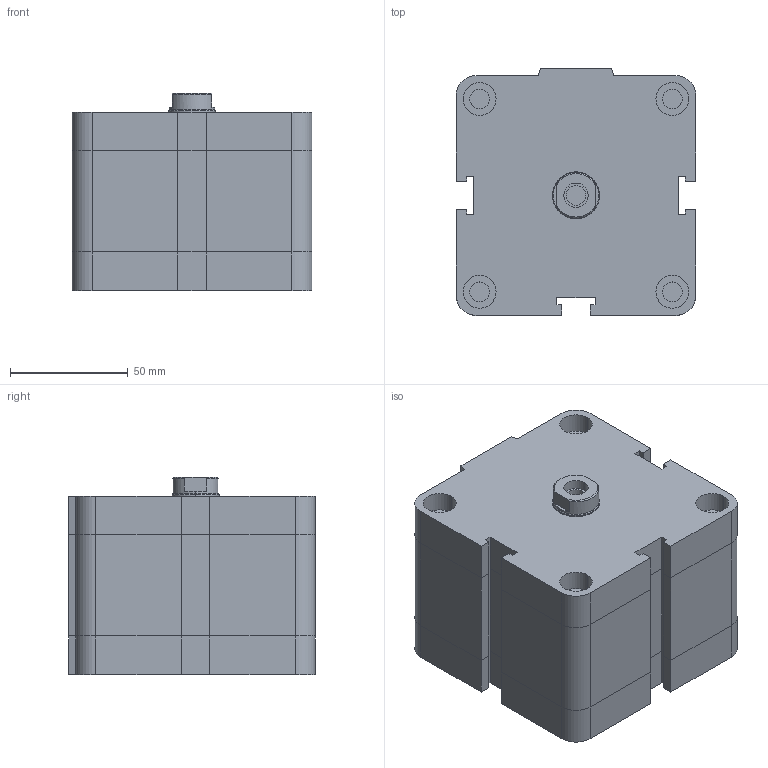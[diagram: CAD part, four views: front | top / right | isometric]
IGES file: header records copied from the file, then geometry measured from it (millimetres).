
Global section: file name: No Iges File Name specified; native system: Autodesk Inventor 2009; preprocessor: AutoDesk Inventor Iges Exporter R2009; author: rivolro1; date: 20081219.155149; units: millimetre
Bounding box: 102 x 105 x 84 mm (x, y, z)
Volume: 753015.4 mm3; surface area: 68979.5 mm2
Topology: 2 solids, 2 shells, 187 faces, 410 edges, 248 vertices
Faces by surface type: plane 112, bspline 39, revolution 16, cylinder 16, cone 4
